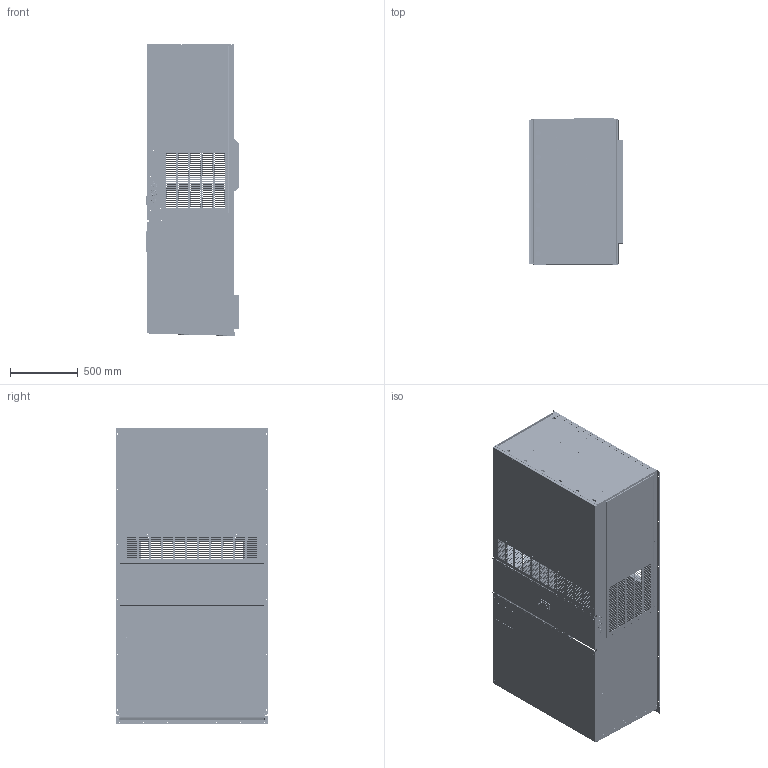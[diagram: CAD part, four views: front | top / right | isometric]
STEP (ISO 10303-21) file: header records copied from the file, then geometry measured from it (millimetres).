
FILE_DESCRIPTION (( 'STEP AP203' ), '1' );
FILE_NAME ('W42-48HC.STEP', '2019-04-22T15:22:50', ( '' ), ( '' ), 'SwSTEP 2.0', 'SolidWorks 2019', '' );
FILE_SCHEMA (( 'CONFIG_CONTROL_DESIGN' ));
Length unit declared in the file: inch
Products named in the file (16): 118-125; 142-221; 114-323; 132-301; 152-717; 5252-033; 106-382; 126-574; 108-412; 108-411; 112-150; 118-126; 110-298; 100-1053; 100-1054; W42-48HC
Assembly tree (17 placements, depth 2):
  W42-48HC
    126-574
    108-412
    114-323
    152-717
    5252-033
    100-1053
    100-1054
    108-411
    112-150
    118-126  x2
    118-125
    132-301
    106-382
    142-221
    110-298  x2
Bounding box: 696.53 x 1117.6 x 2185.99 mm (x, y, z)
Volume: 9242284 mm3; surface area: 19465209.4 mm2
Topology: 289 solids, 289 shells, 8503 faces, 21881 edges, 14026 vertices
Faces by surface type: plane 4967, cylinder 2611, torus 768, bspline 137, sphere 16, cone 4
Entity records: 205701 total; most frequent: CARTESIAN_POINT 40559, DIRECTION 34897, ORIENTED_EDGE 33326, EDGE_CURVE 16663, AXIS2_PLACEMENT_3D 12172, VERTEX_POINT 10590, VECTOR 10553, LINE 10553
